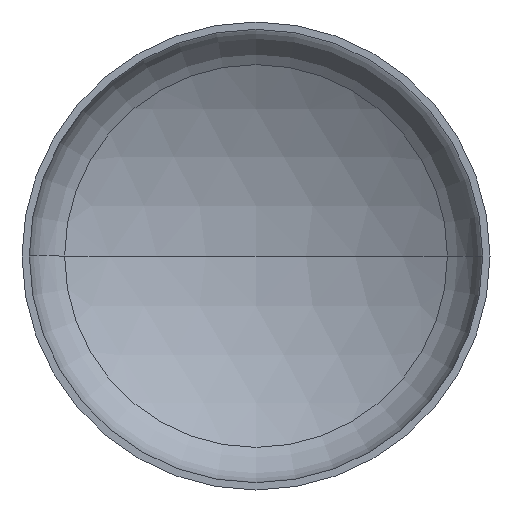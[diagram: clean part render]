
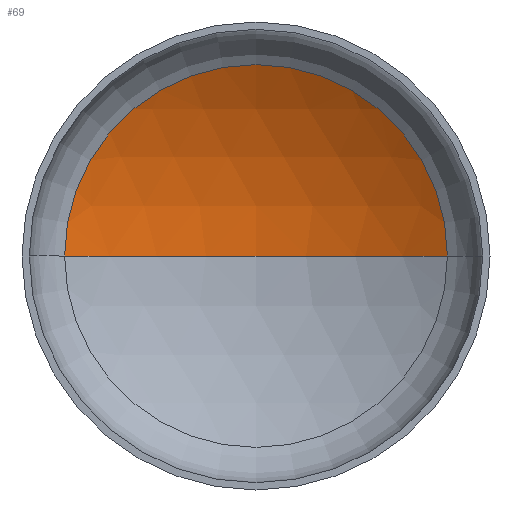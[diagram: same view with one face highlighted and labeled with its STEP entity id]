
A CAD part, front view. The second image highlights one B-rep face of the part: STEP entity #69.
In plain terms, the highlighted spherical face has radius 4800 mm.
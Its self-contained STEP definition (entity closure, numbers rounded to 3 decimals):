
#14 = DIRECTION ( 'NONE',  ( 0., -1., 0. ) ) ;
#19 = DIRECTION ( 'NONE',  ( 0., 0., -1. ) ) ;
#23 = VERTEX_POINT ( 'NONE', #291 ) ;
#24 = CARTESIAN_POINT ( 'NONE',  ( 0., -3230.355, 0. ) ) ;
#27 = CARTESIAN_POINT ( 'NONE',  ( 0., 894.988, 0. ) ) ;
#36 = ORIENTED_EDGE ( 'NONE', *, *, #226, .T. ) ;
#42 = ORIENTED_EDGE ( 'NONE', *, *, #231, .T. ) ;
#69 = ADVANCED_FACE ( 'NONE', ( #170 ), #110, .F. ) ;
#80 = ORIENTED_EDGE ( 'NONE', *, *, #234, .F. ) ;
#83 = EDGE_LOOP ( 'NONE', ( #80, #42, #36 ) ) ;
#93 = VERTEX_POINT ( 'NONE', #243 ) ;
#110 = SPHERICAL_SURFACE ( 'NONE', #194, 4800. ) ;
#144 = AXIS2_PLACEMENT_3D ( 'NONE', #185, #208, #205 ) ;
#146 = AXIS2_PLACEMENT_3D ( 'NONE', #24, #19, #341 ) ;
#150 = AXIS2_PLACEMENT_3D ( 'NONE', #27, #14, #273 ) ;
#170 = FACE_OUTER_BOUND ( 'NONE', #83, .T. ) ;
#185 = CARTESIAN_POINT ( 'NONE',  ( 0., -3230.355, 0. ) ) ;
#194 = AXIS2_PLACEMENT_3D ( 'NONE', #371, #286, #241 ) ;
#205 = DIRECTION ( 'NONE',  ( 1., 0., 0. ) ) ;
#208 = DIRECTION ( 'NONE',  ( 0., 0., 1. ) ) ;
#226 = EDGE_CURVE ( 'NONE', #260, #93, #289, .T. ) ;
#231 = EDGE_CURVE ( 'NONE', #23, #260, #397, .T. ) ;
#234 = EDGE_CURVE ( 'NONE', #23, #93, #280, .T. ) ;
#241 = DIRECTION ( 'NONE',  ( -1., 0., 0. ) ) ;
#243 = CARTESIAN_POINT ( 'NONE',  ( -2453.884, 894.988, 0. ) ) ;
#260 = VERTEX_POINT ( 'NONE', #396 ) ;
#273 = DIRECTION ( 'NONE',  ( 1., 0., 0. ) ) ;
#280 = CIRCLE ( 'NONE', #144, 4800. ) ;
#286 = DIRECTION ( 'NONE',  ( 0., 0., -1. ) ) ;
#289 = CIRCLE ( 'NONE', #150, 2453.884 ) ;
#291 = CARTESIAN_POINT ( 'NONE',  ( 0., 1569.645, 0. ) ) ;
#341 = DIRECTION ( 'NONE',  ( -1., 0., 0. ) ) ;
#371 = CARTESIAN_POINT ( 'NONE',  ( 0., -3230.355, 0. ) ) ;
#396 = CARTESIAN_POINT ( 'NONE',  ( 2453.884, 894.988, 0. ) ) ;
#397 = CIRCLE ( 'NONE', #146, 4800. ) ;
